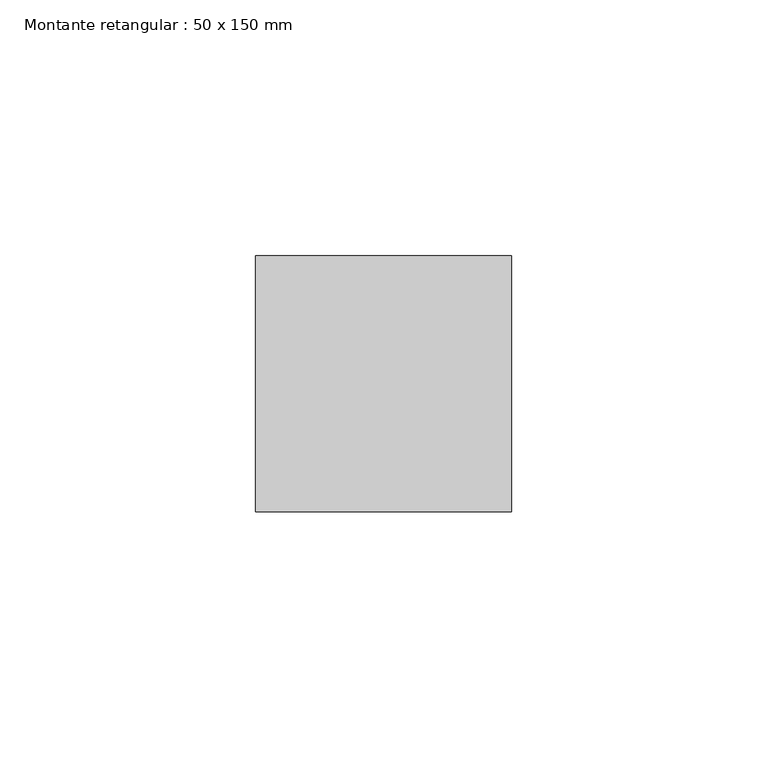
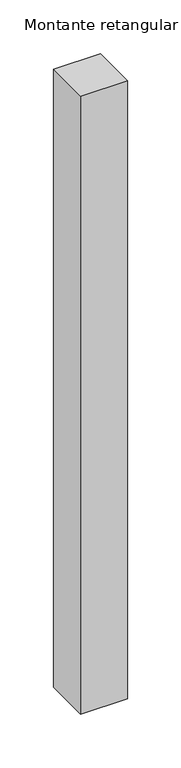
"""IFC4 building model written with IfcOpenShell, lengths in millimetres: member geometry, Montante retangular : 50 x 150 mm."""

from ifc_helpers import new_model, si_unit, frame, origin, place, context, project, spatial, polyline, outline, extrude, source, transform, mapped, element, save


def montante_retangular_50_x_150_mm_0fb6eecf(model_context):
    return source(origin(), model_context, "Body", "SweptSolid", [
        extrude(outline(polyline([(0.0, 25.0), (0.0, -25.0), (-50.0, -25.0), (-50.0, 25.0), (0.0, 25.0)])), frame((0.0, 0.0, -700.0), z_axis=(0.0, 0.0, 1.0), x_axis=(1.0, 0.0, 0.0)), (0.0, 0.0, 1.0), 700.0),
    ])


if __name__ == "__main__":
    model = new_model("IFC4")
    model_context = context("Model", 3, world=origin())
    ifc_project = project(units=[si_unit("LENGTHUNIT", "METRE", prefix="MILLI")], contexts=[model_context])
    site = spatial("IfcSite", under=ifc_project)
    building = spatial("IfcBuilding", under=site)
    placement = place(None, origin())
    montante_retangular_50_x_150_mm_shape = montante_retangular_50_x_150_mm_0fb6eecf(model_context)
    element("IfcMember", 1, ObjectType="Montante retangular : 50 x 150 mm", at=placement, inside=building, context=model_context, shape_type="MappedRepresentation", body=[
        mapped(montante_retangular_50_x_150_mm_shape, transform((0.0, 0.0, 0.0), x_axis=(1.0, 0.0, 0.0), y_axis=(0.0, 1.0, 0.0), z_axis=(0.0, 0.0, 1.0))),
    ])
    save(model, "model.ifc")
